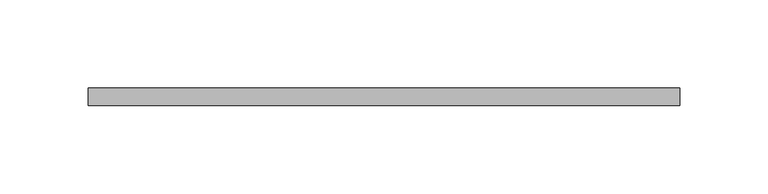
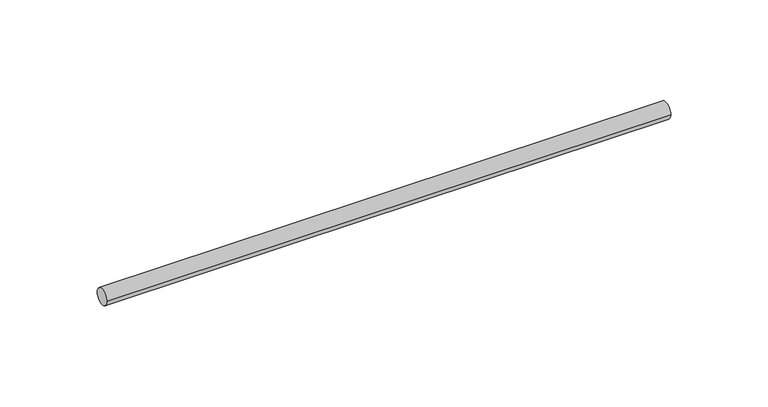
"""IFC4 building model written with IfcOpenShell, lengths in millimetres: valve geometry, Superfix Threaded Rod (used for clamps) : Threaded Rod  Extra  - 1000 mm (used for clamps)."""

from ifc_helpers import new_model, si_unit, point, frame, origin, origin_2d, place, context, project, spatial, circle_curve, trimmed, segment, composite_curve, outline, extrude, source, transform, mapped, element, save


def valve_fe5dbaab(model_context):
    return source(origin(), model_context, "Body", "SweptSolid", [
        extrude(outline(composite_curve([segment(trimmed(circle_curve(origin_2d(), 5.0), [point((-5.0, 0.0))], [point((5.0, 0.0))], False, "CARTESIAN"), True, "CONTINUOUS"), segment(trimmed(circle_curve(origin_2d(), 5.0), [point((5.0, 0.0))], [point((-5.0, 0.0))], False, "CARTESIAN"), True, "CONTINUOUS")], self_intersect=False)), frame((-10.0, 0.0, 0.0), z_axis=(1.0, 0.0, 0.0), x_axis=(0.0, 1.0, 0.0)), (0.0, 0.0, 1.0), 335.0002332),
    ])


if __name__ == "__main__":
    model = new_model("IFC4")
    model_context = context("Model", 3, world=origin())
    ifc_project = project(units=[si_unit("LENGTHUNIT", "METRE", prefix="MILLI")], contexts=[model_context])
    site = spatial("IfcSite", under=ifc_project)
    building = spatial("IfcBuilding", under=site)
    placement = place(None, origin())
    valve_shape = valve_fe5dbaab(model_context)
    element("IfcValve", 1, ObjectType="Superfix Threaded Rod (used for clamps) : Threaded Rod  Extra  - 1000 mm (used for clamps)", at=placement, inside=building, context=model_context, shape_type="MappedRepresentation", body=[
        mapped(valve_shape, transform((0.0, 0.0, 0.0), x_axis=(1.0, 0.0, 0.0), y_axis=(0.0, 1.0, 0.0), z_axis=(0.0, 0.0, 1.0))),
    ])
    save(model, "model.ifc")
